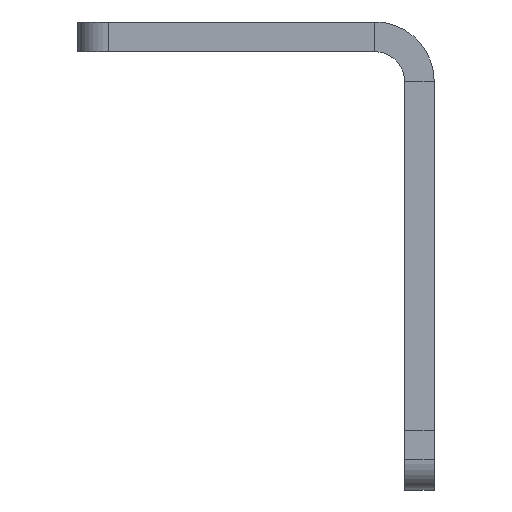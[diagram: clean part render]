
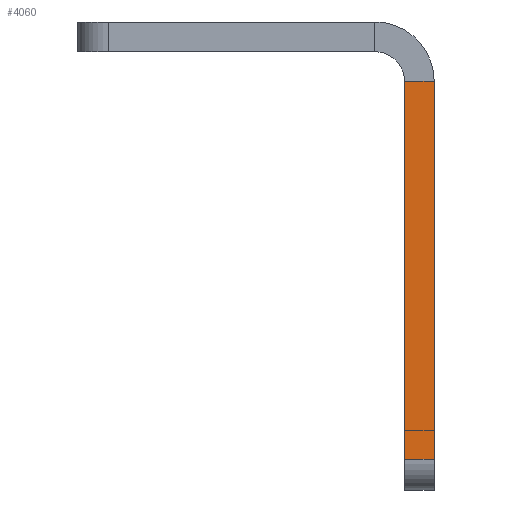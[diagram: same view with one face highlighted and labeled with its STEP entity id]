
A CAD part, left-side view. The second image highlights one B-rep face of the part: STEP entity #4060.
In plain terms, the highlighted planar face has unit normal (-1, 0, 0).
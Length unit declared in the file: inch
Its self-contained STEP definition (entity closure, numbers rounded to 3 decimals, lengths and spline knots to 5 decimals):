
#890=DIRECTION('',(0.,1.,0.));
#891=VECTOR('',#890,0.125);
#892=CARTESIAN_POINT('',(-49.,0.,-0.25));
#893=LINE('',#892,#891);
#894=DIRECTION('',(0.,-1.,0.));
#895=VECTOR('',#894,0.125);
#896=CARTESIAN_POINT('',(-49.,0.125,-1.839));
#897=LINE('',#896,#895);
#898=DIRECTION('',(0.,0.,-1.));
#899=VECTOR('',#898,1.589);
#900=CARTESIAN_POINT('',(-49.,0.125,-0.25));
#901=LINE('',#900,#899);
#902=DIRECTION('',(0.,0.,-1.));
#903=VECTOR('',#902,1.589);
#904=CARTESIAN_POINT('',(-49.,0.,-0.25));
#905=LINE('',#904,#903);
#2683=CARTESIAN_POINT('',(-49.,0.,-0.25));
#2685=VERTEX_POINT('',#2683);
#2691=CARTESIAN_POINT('',(-49.,0.125,-0.25));
#2693=VERTEX_POINT('',#2691);
#2714=CARTESIAN_POINT('',(-49.,0.,-1.839));
#2716=VERTEX_POINT('',#2714);
#2720=CARTESIAN_POINT('',(-49.,0.125,-1.839));
#2721=VERTEX_POINT('',#2720);
#4047=CARTESIAN_POINT('',(-49.,0.0625,-1.1095));
#4048=DIRECTION('',(-1.,0.,0.));
#4049=DIRECTION('',(0.,0.,-1.));
#4050=AXIS2_PLACEMENT_3D('',#4047,#4048,#4049);
#4051=PLANE('',#4050);
#4053=ORIENTED_EDGE('',*,*,#4052,.F.);
#4055=ORIENTED_EDGE('',*,*,#4054,.F.);
#4056=ORIENTED_EDGE('',*,*,#4038,.F.);
#4057=ORIENTED_EDGE('',*,*,#3461,.T.);
#4058=EDGE_LOOP('',(#4053,#4055,#4056,#4057));
#4059=FACE_OUTER_BOUND('',#4058,.F.);
#4060=ADVANCED_FACE('',(#4059),#4051,.T.);
#3461=EDGE_CURVE('',#2685,#2716,#905,.T.);
#4038=EDGE_CURVE('',#2685,#2693,#893,.T.);
#4052=EDGE_CURVE('',#2721,#2716,#897,.T.);
#4054=EDGE_CURVE('',#2693,#2721,#901,.T.);
